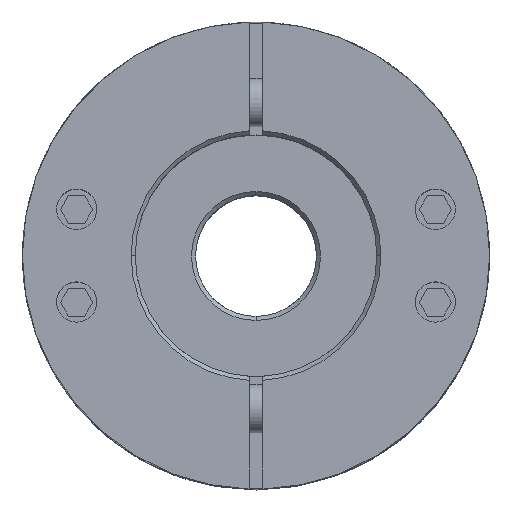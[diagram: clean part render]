
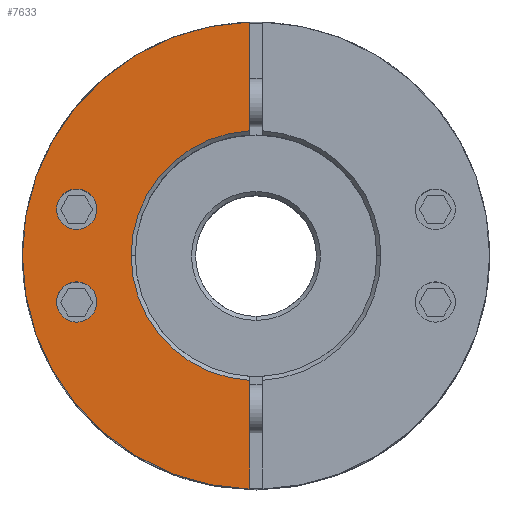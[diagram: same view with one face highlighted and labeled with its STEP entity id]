
A CAD part, top view. The second image highlights one B-rep face of the part: STEP entity #7633.
In plain terms, the highlighted planar face has unit normal (0, 0, 1).
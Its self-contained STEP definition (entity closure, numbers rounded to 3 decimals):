
#4247=CARTESIAN_POINT('',(-19.767,-5.759,27.125));
#4248=VERTEX_POINT('',#4247);
#4257=CARTESIAN_POINT('',(-24.767,-5.759,27.125));
#4258=VERTEX_POINT('',#4257);
#4259=CARTESIAN_POINT('',(-22.267,-5.759,27.125));
#4260=DIRECTION('',(0.0,0.0,-1.0));
#4261=DIRECTION('',(1.0,0.0,0.0));
#4262=AXIS2_PLACEMENT_3D('',#4259,#4260,#4261);
#4263=CIRCLE('',#4262,2.5);
#4264=EDGE_CURVE('',#4258,#4248,#4263,.T.);
#4373=CARTESIAN_POINT('',(-19.767,5.759,27.125));
#4374=VERTEX_POINT('',#4373);
#4383=CARTESIAN_POINT('',(-24.767,5.759,27.125));
#4384=VERTEX_POINT('',#4383);
#4385=CARTESIAN_POINT('',(-22.267,5.759,27.125));
#4386=DIRECTION('',(0.0,0.0,-1.0));
#4387=DIRECTION('',(1.0,0.0,0.0));
#4388=AXIS2_PLACEMENT_3D('',#4385,#4386,#4387);
#4389=CIRCLE('',#4388,2.5);
#4390=EDGE_CURVE('',#4384,#4374,#4389,.T.);
#4602=CARTESIAN_POINT('',(-29.0,0.,27.125));
#4603=VERTEX_POINT('',#4602);
#4610=CARTESIAN_POINT('',(-0.75,28.99,27.125));
#4611=VERTEX_POINT('',#4610);
#4612=CARTESIAN_POINT('',(0.0,0.0,27.125));
#4613=DIRECTION('',(0.0,0.0,-1.0));
#4614=DIRECTION('',(1.0,0.0,0.0));
#4615=AXIS2_PLACEMENT_3D('',#4612,#4613,#4614);
#4616=CIRCLE('',#4615,29.0);
#4617=EDGE_CURVE('',#4603,#4611,#4616,.T.);
#4964=CARTESIAN_POINT('',(-15.5,0.,27.125));
#4965=VERTEX_POINT('',#4964);
#4981=CARTESIAN_POINT('',(-0.75,15.482,27.125));
#4982=VERTEX_POINT('',#4981);
#4996=CARTESIAN_POINT('',(0.0,0.0,27.125));
#4997=DIRECTION('',(0.0,0.0,1.0));
#4998=DIRECTION('',(-1.0,0.0,0.0));
#4999=AXIS2_PLACEMENT_3D('',#4996,#4997,#4998);
#5000=CIRCLE('',#4999,15.5);
#5001=EDGE_CURVE('',#4982,#4965,#5000,.T.);
#7386=CARTESIAN_POINT('',(-0.75,-15.482,27.125));
#7387=VERTEX_POINT('',#7386);
#7388=CARTESIAN_POINT('',(0.0,0.0,27.125));
#7389=DIRECTION('',(0.0,0.0,1.0));
#7390=DIRECTION('',(-1.0,0.0,0.0));
#7391=AXIS2_PLACEMENT_3D('',#7388,#7389,#7390);
#7392=CIRCLE('',#7391,15.5);
#7393=EDGE_CURVE('',#4965,#7387,#7392,.T.);
#7426=CARTESIAN_POINT('',(-0.75,15.482,27.125));
#7427=DIRECTION('',(0.0,1.0,0.0));
#7428=VECTOR('',#7427,13.508);
#7429=LINE('',#7426,#7428);
#7430=EDGE_CURVE('',#4982,#4611,#7429,.T.);
#7540=CARTESIAN_POINT('',(-0.75,-28.99,27.125));
#7541=VERTEX_POINT('',#7540);
#7542=CARTESIAN_POINT('',(-0.75,-28.99,27.125));
#7543=DIRECTION('',(0.0,1.0,0.0));
#7544=VECTOR('',#7543,13.508);
#7545=LINE('',#7542,#7544);
#7546=EDGE_CURVE('',#7541,#7387,#7545,.T.);
#7594=CARTESIAN_POINT('',(2.636,0.,27.125));
#7595=DIRECTION('',(0.0,0.0,1.0));
#7596=DIRECTION('',(1.0,0.0,0.0));
#7597=AXIS2_PLACEMENT_3D('',#7594,#7595,#7596);
#7598=PLANE('',#7597);
#7599=ORIENTED_EDGE('',*,*,#5001,.F.);
#7600=ORIENTED_EDGE('',*,*,#7430,.T.);
#7601=ORIENTED_EDGE('',*,*,#4617,.F.);
#7602=CARTESIAN_POINT('',(0.0,0.0,27.125));
#7603=DIRECTION('',(0.0,0.0,-1.0));
#7604=DIRECTION('',(1.0,0.0,0.0));
#7605=AXIS2_PLACEMENT_3D('',#7602,#7603,#7604);
#7606=CIRCLE('',#7605,29.0);
#7607=EDGE_CURVE('',#7541,#4603,#7606,.T.);
#7608=ORIENTED_EDGE('',*,*,#7607,.F.);
#7609=ORIENTED_EDGE('',*,*,#7546,.T.);
#7610=ORIENTED_EDGE('',*,*,#7393,.F.);
#7611=EDGE_LOOP('',(#7599,#7600,#7601,#7608,#7609,#7610));
#7612=FACE_OUTER_BOUND('',#7611,.T.);
#7613=CARTESIAN_POINT('',(-22.267,-5.759,27.125));
#7614=DIRECTION('',(0.0,0.0,-1.0));
#7615=DIRECTION('',(1.0,0.0,0.0));
#7616=AXIS2_PLACEMENT_3D('',#7613,#7614,#7615);
#7617=CIRCLE('',#7616,2.5);
#7618=EDGE_CURVE('',#4248,#4258,#7617,.T.);
#7619=ORIENTED_EDGE('',*,*,#7618,.T.);
#7620=ORIENTED_EDGE('',*,*,#4264,.T.);
#7621=EDGE_LOOP('',(#7619,#7620));
#7622=FACE_BOUND('',#7621,.T.);
#7623=CARTESIAN_POINT('',(-22.267,5.759,27.125));
#7624=DIRECTION('',(0.0,0.0,-1.0));
#7625=DIRECTION('',(1.0,0.0,0.0));
#7626=AXIS2_PLACEMENT_3D('',#7623,#7624,#7625);
#7627=CIRCLE('',#7626,2.5);
#7628=EDGE_CURVE('',#4374,#4384,#7627,.T.);
#7629=ORIENTED_EDGE('',*,*,#7628,.T.);
#7630=ORIENTED_EDGE('',*,*,#4390,.T.);
#7631=EDGE_LOOP('',(#7629,#7630));
#7632=FACE_BOUND('',#7631,.T.);
#7633=ADVANCED_FACE('',(#7612,#7622,#7632),#7598,.T.);
